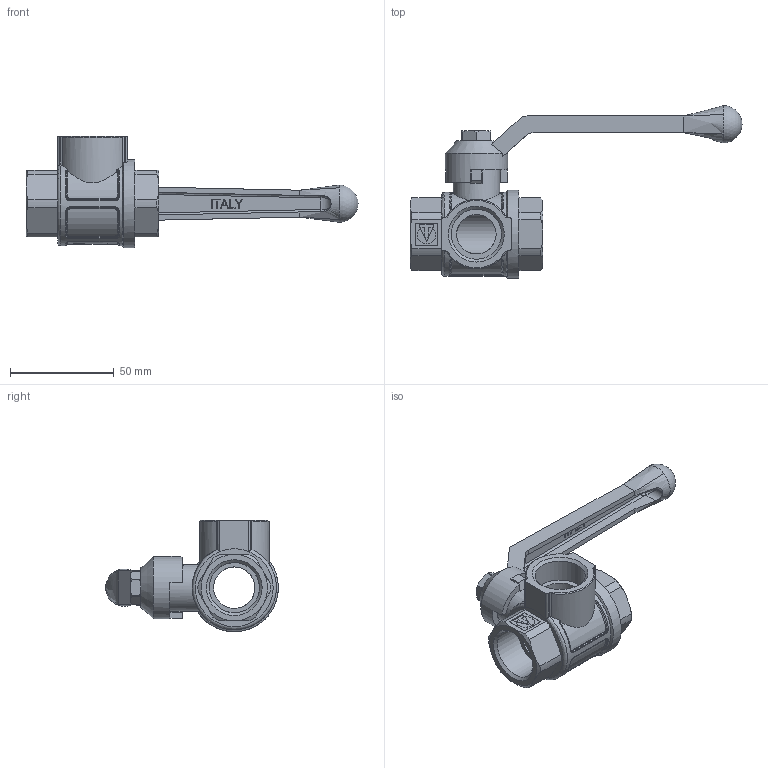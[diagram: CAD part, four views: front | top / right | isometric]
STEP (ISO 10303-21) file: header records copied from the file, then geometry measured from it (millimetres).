
FILE_DESCRIPTION(/* description */ (''),/* implementation_level */ '2;1');
FILE_NAME(/* name */ 'E:\Артём\00000\Работа удаленка\VT.361.N.05.stp',/* time_stamp */ '2020-04-28T12:21:55+03:00',/* author */ ('BeN_GaN'),/* organization */ (''),/* preprocessor_version */ 'ST-DEVELOPER v18',/* originating_system */ 'Autodesk Inventor 2020',/* authorisation */ '');
FILE_SCHEMA (('AUTOMOTIVE_DESIGN { 1 0 10303 214 3 1 1 }'));
Length unit declared in the file: millimetre
Products named in the file (1): VT.360.N.05
Bounding box: 160 x 83.25 x 53.75 mm (x, y, z)
Volume: 67291.3 mm3; surface area: 34797.1 mm2
Topology: 1 solids, 2 shells, 575 faces, 1582 edges, 1028 vertices
Faces by surface type: plane 258, cylinder 129, bspline 113, cone 53, torus 16, sphere 6
Full cylindrical faces by diameter (mm): 9.5 x3, 14 x1, 14.3 x1, 15 x1, 16.5 x2, 19 x2, 20 x3, 20.4 x2, 22.5 x1, 24 x1, 24.2 x2, 24.4 x1, 28 x2, 30 x1, 34.5 x1, 42.5 x1
Entity records: 21830 total; most frequent: CARTESIAN_POINT 7792, ORIENTED_EDGE 3152, DIRECTION 2664, EDGE_CURVE 1576, VERTEX_POINT 1028, AXIS2_PLACEMENT_3D 1005, LINE 654, VECTOR 654
